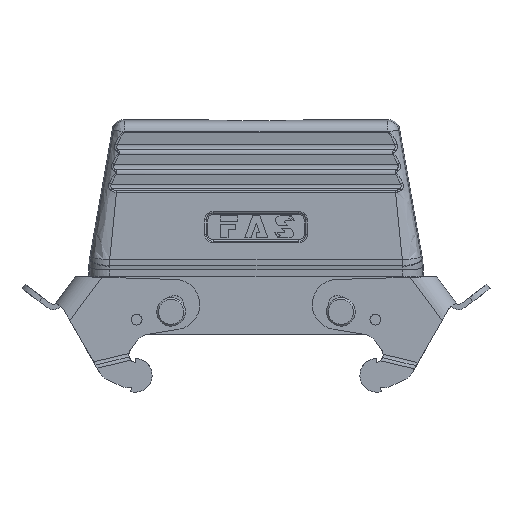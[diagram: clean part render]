
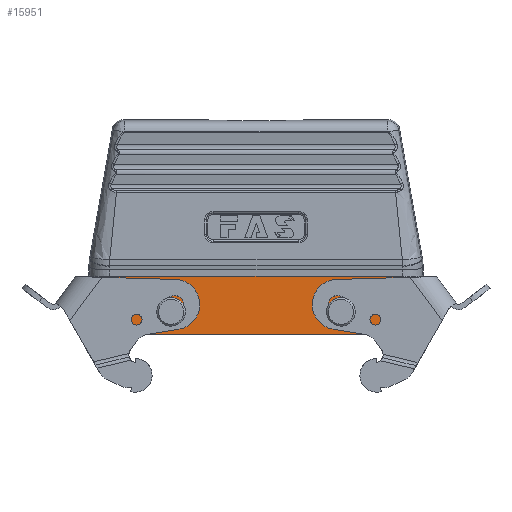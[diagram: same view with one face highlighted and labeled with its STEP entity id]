
A CAD part, front view. The second image highlights one B-rep face of the part: STEP entity #15951.
In plain terms, the highlighted planar face has unit normal (0, -1, 0).
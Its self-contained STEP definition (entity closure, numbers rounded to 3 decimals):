
#117 = CARTESIAN_POINT ( 'NONE',  ( -4.974, 25.593, 51.29 ) ) ;
#145 = CARTESIAN_POINT ( 'NONE',  ( 59.195, 25.593, 46.461 ) ) ;
#160 = EDGE_CURVE ( 'NONE', #31284, #7324, #5776, .T. ) ;
#200 = CARTESIAN_POINT ( 'NONE',  ( -4.984, 25.593, 51.452 ) ) ;
#295 = CARTESIAN_POINT ( 'NONE',  ( -4.975, 25.593, 51.31 ) ) ;
#407 = CARTESIAN_POINT ( 'NONE',  ( -5.178, 25.593, 54.762 ) ) ;
#449 = VECTOR ( 'NONE', #7794, 1000. ) ;
#979 = DIRECTION ( 'NONE',  ( 0., -1., 0. ) ) ;
#1828 = CIRCLE ( 'NONE', #6319, 2.983 ) ;
#2552 = CARTESIAN_POINT ( 'NONE',  ( -4.72, 25.593, 47.307 ) ) ;
#2756 = CARTESIAN_POINT ( 'NONE',  ( -5.211, 25.593, 55.399 ) ) ;
#2846 = CARTESIAN_POINT ( 'NONE',  ( -4.994, 25.593, 51.617 ) ) ;
#3409 = CARTESIAN_POINT ( 'NONE',  ( 11.695, 25.593, 49.444 ) ) ;
#3518 = DIRECTION ( 'NONE',  ( 0., 0., -1. ) ) ;
#3748 = CARTESIAN_POINT ( 'NONE',  ( 75.334, 25.593, 43.144 ) ) ;
#3903 = FACE_BOUND ( 'NONE', #26060, .T. ) ;
#4936 = ORIENTED_EDGE ( 'NONE', *, *, #22143, .F. ) ;
#4978 = CARTESIAN_POINT ( 'NONE',  ( -4.717, 25.593, 47.267 ) ) ;
#5084 = CARTESIAN_POINT ( 'NONE',  ( -5.125, 25.593, 53.806 ) ) ;
#5379 = LINE ( 'NONE', #12942, #449 ) ;
#5396 = CARTESIAN_POINT ( 'NONE',  ( 59.195, 25.593, 49.444 ) ) ;
#5776 = LINE ( 'NONE', #13983, #28861 ) ;
#5803 = EDGE_CURVE ( 'NONE', #15231, #31284, #30505, .T. ) ;
#5984 = EDGE_CURVE ( 'NONE', #28202, #28202, #25191, .T. ) ;
#6319 = AXIS2_PLACEMENT_3D ( 'NONE', #5396, #7707, #15061 ) ;
#7303 = FACE_OUTER_BOUND ( 'NONE', #11254, .T. ) ;
#7324 = VERTEX_POINT ( 'NONE', #31259 ) ;
#7379 = CARTESIAN_POINT ( 'NONE',  ( -4.715, 25.593, 47.226 ) ) ;
#7702 = CARTESIAN_POINT ( 'NONE',  ( -5.224, 25.593, 55.641 ) ) ;
#7707 = DIRECTION ( 'NONE',  ( 0., 1., 0. ) ) ;
#7794 = DIRECTION ( 'NONE',  ( -1., 0., 0. ) ) ;
#8265 = DIRECTION ( 'NONE',  ( 0., 0., -1. ) ) ;
#9699 = CARTESIAN_POINT ( 'NONE',  ( -4.886, 25.593, 49.888 ) ) ;
#10804 = CARTESIAN_POINT ( 'NONE',  ( 75.457, 25.593, 45.032 ) ) ;
#11254 = EDGE_LOOP ( 'NONE', ( #12252, #29313, #14305, #4936 ) ) ;
#12145 = CARTESIAN_POINT ( 'NONE',  ( -4.975, 25.593, 51.298 ) ) ;
#12239 = CARTESIAN_POINT ( 'NONE',  ( -5.324, 25.593, 57.675 ) ) ;
#12252 = ORIENTED_EDGE ( 'NONE', *, *, #16956, .T. ) ;
#12332 = CARTESIAN_POINT ( 'NONE',  ( -4.525, 25.593, 44.333 ) ) ;
#12445 = CARTESIAN_POINT ( 'NONE',  ( -5.4, 25.593, 59.433 ) ) ;
#12942 = CARTESIAN_POINT ( 'NONE',  ( -37.805, 25.593, 59.433 ) ) ;
#13018 = CARTESIAN_POINT ( 'NONE',  ( -4.444, 25.593, 43.144 ) ) ;
#13350 = CARTESIAN_POINT ( 'NONE',  ( 76.151, 25.593, 55.888 ) ) ;
#13371 = ORIENTED_EDGE ( 'NONE', *, *, #30861, .T. ) ;
#13577 = CARTESIAN_POINT ( 'NONE',  ( 76.29, 25.593, 59.433 ) ) ;
#13865 = DIRECTION ( 'NONE',  ( 1., 0., 0. ) ) ;
#13966 = B_SPLINE_CURVE_WITH_KNOTS ( 'NONE', 3,
 ( #18507, #13350, #28139, #10804, #3748 ),
 .UNSPECIFIED., .F., .F.,
 ( 4, 1, 4 ),
 ( 0., 0.652, 1. ),
 .UNSPECIFIED. ) ;
#13983 = CARTESIAN_POINT ( 'NONE',  ( 22.195, 25.593, 43.144 ) ) ;
#14305 = ORIENTED_EDGE ( 'NONE', *, *, #160, .T. ) ;
#14568 = CARTESIAN_POINT ( 'NONE',  ( -4.979, 25.593, 51.369 ) ) ;
#14760 = CARTESIAN_POINT ( 'NONE',  ( -4.976, 25.593, 51.327 ) ) ;
#14956 = CARTESIAN_POINT ( 'NONE',  ( -4.444, 25.593, 43.144 ) ) ;
#15061 = DIRECTION ( 'NONE',  ( 0., 0., -1. ) ) ;
#15231 = VERTEX_POINT ( 'NONE', #26307 ) ;
#15951 = ADVANCED_FACE ( 'NONE', ( #21622, #3903, #7303 ), #30284, .T. ) ;
#16835 = CARTESIAN_POINT ( 'NONE',  ( -5.37, 25.593, 58.72 ) ) ;
#16947 = CARTESIAN_POINT ( 'NONE',  ( -4.738, 25.593, 47.581 ) ) ;
#16956 = EDGE_CURVE ( 'NONE', #30547, #15231, #5379, .T. ) ;
#18507 = CARTESIAN_POINT ( 'NONE',  ( 76.29, 25.593, 59.433 ) ) ;
#19303 = CARTESIAN_POINT ( 'NONE',  ( -5.053, 25.593, 52.582 ) ) ;
#19599 = CARTESIAN_POINT ( 'NONE',  ( -5.217, 25.593, 55.5 ) ) ;
#19711 = CARTESIAN_POINT ( 'NONE',  ( -4.726, 25.593, 47.399 ) ) ;
#20284 = DIRECTION ( 'NONE',  ( 0., -1., 0. ) ) ;
#21410 = EDGE_LOOP ( 'NONE', ( #13371 ) ) ;
#21622 = FACE_BOUND ( 'NONE', #21410, .T. ) ;
#21703 = CARTESIAN_POINT ( 'NONE',  ( -5.014, 25.593, 51.943 ) ) ;
#21810 = CARTESIAN_POINT ( 'NONE',  ( -4.716, 25.593, 47.241 ) ) ;
#21926 = CARTESIAN_POINT ( 'NONE',  ( -4.942, 25.593, 50.778 ) ) ;
#22022 = CARTESIAN_POINT ( 'NONE',  ( -5.267, 25.593, 56.501 ) ) ;
#22122 = CARTESIAN_POINT ( 'NONE',  ( -5.214, 25.593, 55.439 ) ) ;
#22143 = EDGE_CURVE ( 'NONE', #30547, #7324, #13966, .T. ) ;
#23018 = CARTESIAN_POINT ( 'NONE',  ( -37.805, 25.593, 43.144 ) ) ;
#23324 = AXIS2_PLACEMENT_3D ( 'NONE', #3409, #20284, #8265 ) ;
#23350 = ORIENTED_EDGE ( 'NONE', *, *, #5984, .F. ) ;
#24344 = CARTESIAN_POINT ( 'NONE',  ( -4.805, 25.593, 48.626 ) ) ;
#25023 = AXIS2_PLACEMENT_3D ( 'NONE', #23018, #979, #3518 ) ;
#25191 = CIRCLE ( 'NONE', #23324, 2.983 ) ;
#25800 = CARTESIAN_POINT ( 'NONE',  ( 11.695, 25.593, 46.461 ) ) ;
#25915 = VERTEX_POINT ( 'NONE', #145 ) ;
#26060 = EDGE_LOOP ( 'NONE', ( #23350 ) ) ;
#26307 = CARTESIAN_POINT ( 'NONE',  ( -5.4, 25.593, 59.433 ) ) ;
#26593 = CARTESIAN_POINT ( 'NONE',  ( -4.761, 25.593, 47.939 ) ) ;
#26801 = CARTESIAN_POINT ( 'NONE',  ( -4.615, 25.593, 45.69 ) ) ;
#28139 = CARTESIAN_POINT ( 'NONE',  ( 75.822, 25.593, 50.458 ) ) ;
#28202 = VERTEX_POINT ( 'NONE', #25800 ) ;
#28861 = VECTOR ( 'NONE', #13865, 1000. ) ;
#29163 = CARTESIAN_POINT ( 'NONE',  ( -5.239, 25.593, 55.926 ) ) ;
#29313 = ORIENTED_EDGE ( 'NONE', *, *, #5803, .T. ) ;
#29365 = CARTESIAN_POINT ( 'NONE',  ( -5.21, 25.593, 55.377 ) ) ;
#30284 = PLANE ( 'NONE',  #25023 ) ;
#30505 = B_SPLINE_CURVE_WITH_KNOTS ( 'NONE', 3,
 ( #12445, #16835, #12239, #22022, #29163, #7702, #19599, #22122, #2756, #29365, #407, #5084, #19303, #21703, #2846, #200, #14568, #14760, #295, #12145, #117, #21926, #9699, #24344, #26593, #16947, #19711, #2552, #4978, #21810, #7379, #26801, #12332, #14956 ),
 .UNSPECIFIED., .F., .F.,
 ( 4, 1, 1, 1, 1, 1, 2, 2, 1, 1, 1, 1, 1, 1, 1, 2, 2, 1, 1, 1, 1, 1, 1, 2, 2, 4 ),
 ( 0., 0.125, 0.187, 0.219, 0.234, 0.242, 0.246, 0.25, 0.375, 0.437, 0.469, 0.484, 0.492, 0.496, 0.498, 0.499, 0.5, 0.625, 0.687, 0.719, 0.734, 0.742, 0.746, 0.748, 0.75, 1. ),
 .UNSPECIFIED. ) ;
#30547 = VERTEX_POINT ( 'NONE', #13577 ) ;
#30861 = EDGE_CURVE ( 'NONE', #25915, #25915, #1828, .T. ) ;
#31259 = CARTESIAN_POINT ( 'NONE',  ( 75.334, 25.593, 43.144 ) ) ;
#31284 = VERTEX_POINT ( 'NONE', #13018 ) ;
